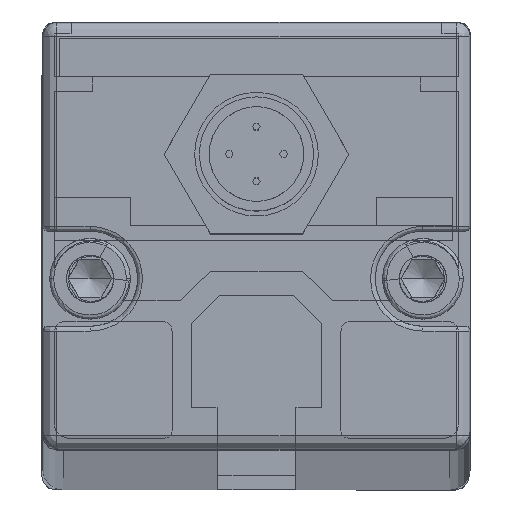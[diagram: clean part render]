
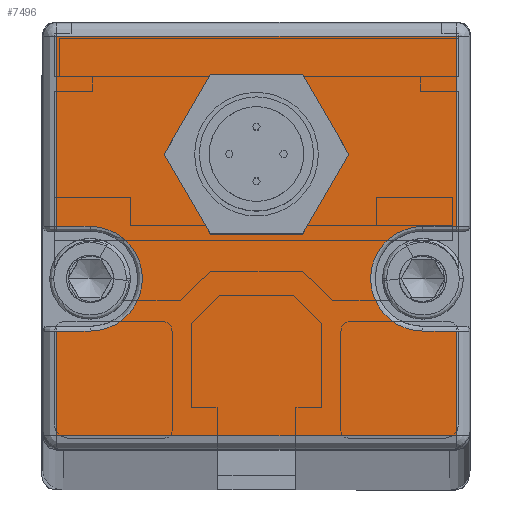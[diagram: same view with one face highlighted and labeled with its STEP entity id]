
A CAD part, top view. The second image highlights one B-rep face of the part: STEP entity #7496.
In plain terms, the highlighted planar face has unit normal (0, 0, 1) as drawn and (0, 1, 0) by its records, which use the part's own axes.
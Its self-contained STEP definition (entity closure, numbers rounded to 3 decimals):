
#1136 = ORIENTED_EDGE ( 'NONE', *, *, #8536, .F. ) ;
#1138 = ORIENTED_EDGE ( 'NONE', *, *, #7669, .F. ) ;
#1141 = ORIENTED_EDGE ( 'NONE', *, *, #8548, .T. ) ;
#1146 = ORIENTED_EDGE ( 'NONE', *, *, #8531, .T. ) ;
#1150 = ORIENTED_EDGE ( 'NONE', *, *, #8530, .T. ) ;
#1152 = ORIENTED_EDGE ( 'NONE', *, *, #8533, .T. ) ;
#1154 = ORIENTED_EDGE ( 'NONE', *, *, #8569, .T. ) ;
#1156 = ORIENTED_EDGE ( 'NONE', *, *, #8546, .T. ) ;
#1158 = ORIENTED_EDGE ( 'NONE', *, *, #8544, .T. ) ;
#1160 = ORIENTED_EDGE ( 'NONE', *, *, #8542, .T. ) ;
#1164 = ORIENTED_EDGE ( 'NONE', *, *, #8538, .T. ) ;
#1166 = ORIENTED_EDGE ( 'NONE', *, *, #8534, .T. ) ;
#1167 = ORIENTED_EDGE ( 'NONE', *, *, #8539, .T. ) ;
#1168 = ORIENTED_EDGE ( 'NONE', *, *, #8540, .T. ) ;
#3472 = CARTESIAN_POINT ( 'NONE',  ( 22.5, 7., 22.5 ) ) ;
#3486 = PLANE ( 'NONE',  #4023 ) ;
#3487 = DIRECTION ( 'NONE',  ( 0., 1., 0. ) ) ;
#3488 = DIRECTION ( 'NONE',  ( 0., 0., 1. ) ) ;
#3804 = FACE_BOUND ( 'NONE', #9037, .T. ) ;
#3805 = FACE_OUTER_BOUND ( 'NONE', #9050, .T. ) ;
#4023 = AXIS2_PLACEMENT_3D ( 'NONE', #3472, #3487, #3488 ) ;
#4162 = AXIS2_PLACEMENT_3D ( 'NONE', #4883, #4884, #4885 ) ;
#4246 = AXIS2_PLACEMENT_3D ( 'NONE', #5948, #5949, #5950 ) ;
#4252 = AXIS2_PLACEMENT_3D ( 'NONE', #5961, #5963, #5964 ) ;
#4255 = AXIS2_PLACEMENT_3D ( 'NONE', #5962, #5969, #5970 ) ;
#4883 = CARTESIAN_POINT ( 'NONE',  ( 0., 7., -8.6 ) ) ;
#4884 = DIRECTION ( 'NONE',  ( 0., 1., 0. ) ) ;
#4885 = DIRECTION ( 'NONE',  ( 0., 0., 1. ) ) ;
#5224 = CIRCLE ( 'NONE', #4162, 6.5 ) ;
#5604 = VECTOR ( 'NONE', #5952, 1000. ) ;
#5611 = VECTOR ( 'NONE', #5955, 1000. ) ;
#5612 = LINE ( 'NONE', #5945, #5604 ) ;
#5613 = CIRCLE ( 'NONE', #4246, 5.5 ) ;
#5614 = LINE ( 'NONE', #5982, #6767 ) ;
#5615 = LINE ( 'NONE', #5940, #5611 ) ;
#5617 = LINE ( 'NONE', #5956, #5618 ) ;
#5618 = VECTOR ( 'NONE', #5957, 1000. ) ;
#5940 = CARTESIAN_POINT ( 'NONE',  ( 22.5, 7., -1. ) ) ;
#5945 = CARTESIAN_POINT ( 'NONE',  ( 22.5, 7., 10. ) ) ;
#5948 = CARTESIAN_POINT ( 'NONE',  ( 17.5, 7., 4.5 ) ) ;
#5949 = DIRECTION ( 'NONE',  ( 0., -1., 0. ) ) ;
#5950 = DIRECTION ( 'NONE',  ( 0., 0., 1. ) ) ;
#5952 = DIRECTION ( 'NONE',  ( -1., 0., 0. ) ) ;
#5955 = DIRECTION ( 'NONE',  ( 1., 0., 0. ) ) ;
#5956 = CARTESIAN_POINT ( 'NONE',  ( 22.5, 7., 10. ) ) ;
#5957 = DIRECTION ( 'NONE',  ( -1., 0., 0. ) ) ;
#5961 = CARTESIAN_POINT ( 'NONE',  ( 0., 7., -8.6 ) ) ;
#5962 = CARTESIAN_POINT ( 'NONE',  ( -17.5, 7., 4.5 ) ) ;
#5963 = DIRECTION ( 'NONE',  ( 0., 1., 0. ) ) ;
#5964 = DIRECTION ( 'NONE',  ( 0., 0., 1. ) ) ;
#5969 = DIRECTION ( 'NONE',  ( 0., -1., 0. ) ) ;
#5970 = DIRECTION ( 'NONE',  ( 0., 0., 1. ) ) ;
#5971 = CARTESIAN_POINT ( 'NONE',  ( -21., 7., 22.5 ) ) ;
#5972 = DIRECTION ( 'NONE',  ( 0., 0., 1. ) ) ;
#5973 = CARTESIAN_POINT ( 'NONE',  ( 22.5, 7., 21. ) ) ;
#5974 = DIRECTION ( 'NONE',  ( 1., 0., 0. ) ) ;
#5977 = CARTESIAN_POINT ( 'NONE',  ( 22.5, 7., -1. ) ) ;
#5978 = DIRECTION ( 'NONE',  ( 1., 0., 0. ) ) ;
#5982 = CARTESIAN_POINT ( 'NONE',  ( -21., 7., 22.5 ) ) ;
#5983 = DIRECTION ( 'NONE',  ( 0., 0., 1. ) ) ;
#5986 = CARTESIAN_POINT ( 'NONE',  ( 22.5, 7., -21. ) ) ;
#5987 = DIRECTION ( 'NONE',  ( -1., 0., 0. ) ) ;
#5990 = CARTESIAN_POINT ( 'NONE',  ( 21., 7., 9.5 ) ) ;
#5991 = DIRECTION ( 'NONE',  ( 0., 0., -1. ) ) ;
#6040 = CARTESIAN_POINT ( 'NONE',  ( 21., 7., -22.5 ) ) ;
#6041 = DIRECTION ( 'NONE',  ( 0., 0., -1. ) ) ;
#6378 = CARTESIAN_POINT ( 'NONE',  ( -21., 7., 10. ) ) ;
#6401 = CARTESIAN_POINT ( 'NONE',  ( 17.5, 7., -1. ) ) ;
#6403 = CARTESIAN_POINT ( 'NONE',  ( -17.5, 7., -1. ) ) ;
#6431 = CARTESIAN_POINT ( 'NONE',  ( 21., 7., 10. ) ) ;
#6435 = CARTESIAN_POINT ( 'NONE',  ( -21., 7., 21. ) ) ;
#6440 = CARTESIAN_POINT ( 'NONE',  ( 17.5, 7., 10. ) ) ;
#6449 = CARTESIAN_POINT ( 'NONE',  ( 21., 7., 21. ) ) ;
#6451 = CARTESIAN_POINT ( 'NONE',  ( 21., 7., -21. ) ) ;
#6473 = CARTESIAN_POINT ( 'NONE',  ( 0., 7., -2.1 ) ) ;
#6480 = CARTESIAN_POINT ( 'NONE',  ( -17.5, 7., 10. ) ) ;
#6486 = CARTESIAN_POINT ( 'NONE',  ( -21., 7., -1. ) ) ;
#6494 = CARTESIAN_POINT ( 'NONE',  ( 0., 7., -15.1 ) ) ;
#6513 = CARTESIAN_POINT ( 'NONE',  ( 21., 7., -1. ) ) ;
#6525 = CARTESIAN_POINT ( 'NONE',  ( -21., 7., -21. ) ) ;
#6762 = LINE ( 'NONE', #5971, #6765 ) ;
#6763 = LINE ( 'NONE', #5990, #6784 ) ;
#6764 = CIRCLE ( 'NONE', #4252, 6.5 ) ;
#6765 = VECTOR ( 'NONE', #5972, 1000. ) ;
#6767 = VECTOR ( 'NONE', #5983, 1000. ) ;
#6768 = CIRCLE ( 'NONE', #4255, 5.5 ) ;
#6769 = LINE ( 'NONE', #5973, #6770 ) ;
#6770 = VECTOR ( 'NONE', #5974, 1000. ) ;
#6773 = LINE ( 'NONE', #5977, #6774 ) ;
#6774 = VECTOR ( 'NONE', #5978, 1000. ) ;
#6779 = LINE ( 'NONE', #5986, #6780 ) ;
#6780 = VECTOR ( 'NONE', #5987, 1000. ) ;
#6784 = VECTOR ( 'NONE', #5991, 1000. ) ;
#6817 = LINE ( 'NONE', #6040, #6818 ) ;
#6818 = VECTOR ( 'NONE', #6041, 1000. ) ;
#7496 = ADVANCED_FACE ( 'NONE', ( #3804, #3805 ), #3486, .T. ) ;
#7669 = EDGE_CURVE ( 'NONE', #9466, #9445, #5224, .T. ) ;
#8530 = EDGE_CURVE ( 'NONE', #9412, #9373, #5613, .T. ) ;
#8531 = EDGE_CURVE ( 'NONE', #9403, #9412, #5612, .T. ) ;
#8533 = EDGE_CURVE ( 'NONE', #9373, #9485, #5615, .T. ) ;
#8534 = EDGE_CURVE ( 'NONE', #9452, #9350, #5617, .T. ) ;
#8536 = EDGE_CURVE ( 'NONE', #9445, #9466, #6764, .T. ) ;
#8538 = EDGE_CURVE ( 'NONE', #9375, #9452, #6768, .T. ) ;
#8539 = EDGE_CURVE ( 'NONE', #9350, #9407, #6762, .T. ) ;
#8540 = EDGE_CURVE ( 'NONE', #9407, #9421, #6769, .T. ) ;
#8542 = EDGE_CURVE ( 'NONE', #9458, #9375, #6773, .T. ) ;
#8544 = EDGE_CURVE ( 'NONE', #9497, #9458, #5614, .T. ) ;
#8546 = EDGE_CURVE ( 'NONE', #9423, #9497, #6779, .T. ) ;
#8548 = EDGE_CURVE ( 'NONE', #9421, #9403, #6763, .T. ) ;
#8569 = EDGE_CURVE ( 'NONE', #9485, #9423, #6817, .T. ) ;
#9037 = EDGE_LOOP ( 'NONE', ( #1136, #1138 ) ) ;
#9050 = EDGE_LOOP ( 'NONE', ( #1141, #1146, #1150, #1152, #1154, #1156, #1158, #1160, #1164, #1166, #1167, #1168 ) ) ;
#9350 = VERTEX_POINT ( 'NONE', #6378 ) ;
#9373 = VERTEX_POINT ( 'NONE', #6401 ) ;
#9375 = VERTEX_POINT ( 'NONE', #6403 ) ;
#9403 = VERTEX_POINT ( 'NONE', #6431 ) ;
#9407 = VERTEX_POINT ( 'NONE', #6435 ) ;
#9412 = VERTEX_POINT ( 'NONE', #6440 ) ;
#9421 = VERTEX_POINT ( 'NONE', #6449 ) ;
#9423 = VERTEX_POINT ( 'NONE', #6451 ) ;
#9445 = VERTEX_POINT ( 'NONE', #6473 ) ;
#9452 = VERTEX_POINT ( 'NONE', #6480 ) ;
#9458 = VERTEX_POINT ( 'NONE', #6486 ) ;
#9466 = VERTEX_POINT ( 'NONE', #6494 ) ;
#9485 = VERTEX_POINT ( 'NONE', #6513 ) ;
#9497 = VERTEX_POINT ( 'NONE', #6525 ) ;
